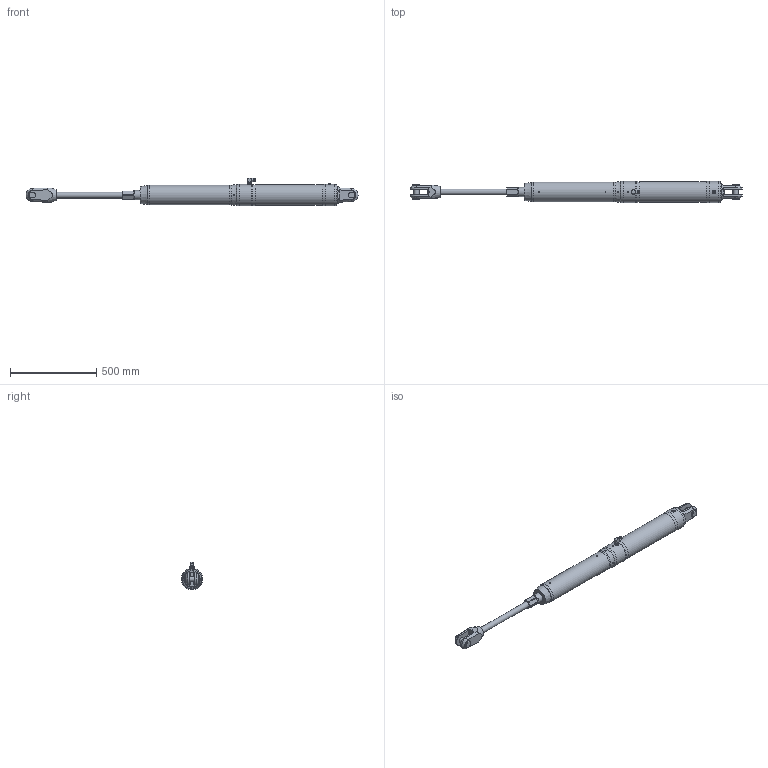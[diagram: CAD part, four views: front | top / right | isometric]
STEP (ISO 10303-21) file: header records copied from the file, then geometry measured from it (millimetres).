
FILE_DESCRIPTION(/* description */ (''),/* implementation_level */ '2;1');
FILE_NAME(/* name */ 'Q:\AA BRAND HYDRAULICS\HYDRAULICS FAMILY DIRECTORY\HYDRAULICS\CYLINDERS\MECHANICAL LOCK RAMS\ALUMINIUM - STAINLESS SINGLE ACTING (-0012 To -0150)\MSA-0076-S0375-NP-71\MSA-0076-S0375-NP-71 (Open).stp',/* time_stamp */ '2018-04-25T16:52:40+01:00',/* author */ ('Lorena'),/* organization */ (''),/* preprocessor_version */ 'ST-DEVELOPER v17',/* originating_system */ 'Autodesk Inventor 2018',/* authorisation */ '');
FILE_SCHEMA (('AUTOMOTIVE_DESIGN { 1 0 10303 214 3 1 1 }'));
Length unit declared in the file: millimetre
Products named in the file (1): MSA-0076-S0375-NP-71 (Open)
Bounding box: 1926.7 x 123.6 x 159.15 mm (x, y, z)
Volume: 14153763.7 mm3; surface area: 622311.7 mm2
Topology: 2 solids, 4 shells, 495 faces, 1299 edges, 847 vertices
Faces by surface type: plane 280, cone 124, cylinder 77, torus 6, sphere 4, bspline 4
Full cylindrical faces by diameter (mm): 4 x1, 4.134 x1, 4.2 x2, 5 x3, 7 x1, 7.5 x1, 8 x4, 8.1 x1, 9 x1, 10 x2, 14 x1, 14.35 x1, 14.662 x1, 15 x2, 15.25 x1, 15.662 x1, 16.662 x2, 18 x2, 20 x2, 21.4 x3, 25 x1, 31.75 x2, 34.25 x1, 39.688 x2, 53 x2, 54 x2, 57 x1, 114 x1, 120.6 x1, 123.6 x4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
Entity records: 16721 total; most frequent: CARTESIAN_POINT 4137, ORIENTED_EDGE 2580, DIRECTION 2510, EDGE_CURVE 1290, AXIS2_PLACEMENT_3D 963, VERTEX_POINT 848, LINE 584, VECTOR 584
